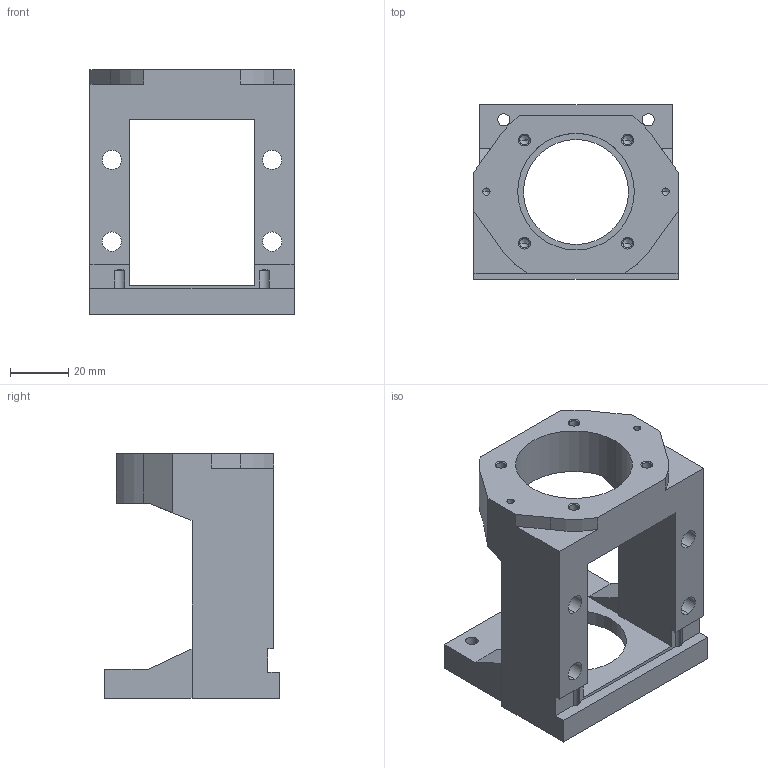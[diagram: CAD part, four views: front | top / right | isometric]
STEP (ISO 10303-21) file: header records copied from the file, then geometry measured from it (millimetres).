
FILE_DESCRIPTION (( 'STEP AP203' ), '1' );
FILE_NAME ('自化件傳動座外MBA15DP本體.STEP', '2018-12-27T08:26:03', ( '' ), ( '' ), 'SwSTEP 2.0', 'SolidWorks 2018', '' );
FILE_SCHEMA (( 'CONFIG_CONTROL_DESIGN' ));
Length unit declared in the file: millimetre
Products named in the file (1): 自化件傳動座外MBA15DP本體
Bounding box: 70 x 60 x 84 mm (x, y, z)
Volume: 101725.8 mm3; surface area: 31809.9 mm2
Topology: 1 solids, 1 shells, 119 faces, 322 edges, 196 vertices
Faces by surface type: cylinder 46, plane 41, cone 32
Entity records: 3759 total; most frequent: DIRECTION 656, CARTESIAN_POINT 644, ORIENTED_EDGE 612, EDGE_CURVE 306, AXIS2_PLACEMENT_3D 232, VERTEX_POINT 196, LINE 192, VECTOR 192
